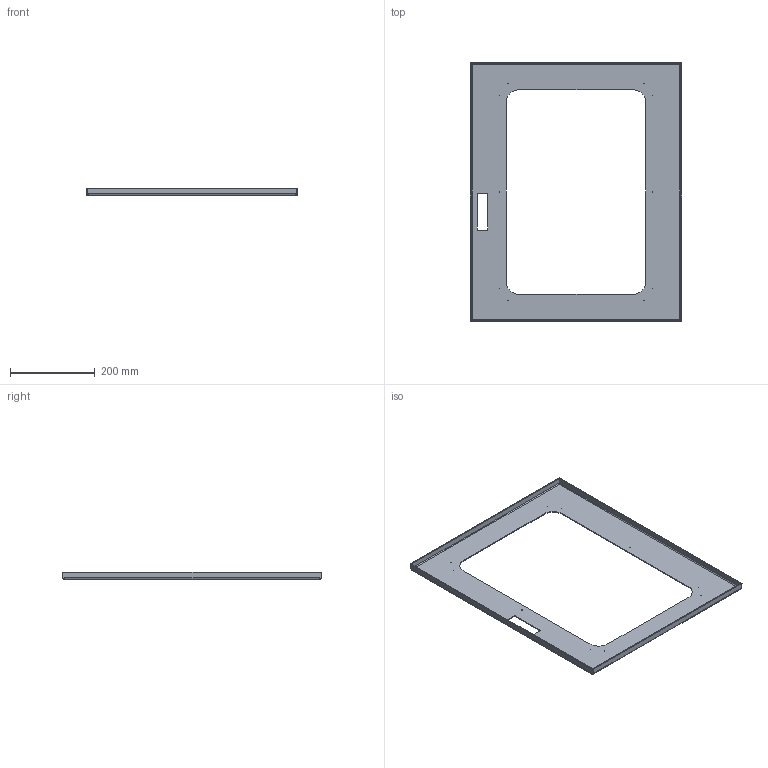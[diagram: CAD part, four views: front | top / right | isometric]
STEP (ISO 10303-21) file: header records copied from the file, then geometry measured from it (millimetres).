
FILE_DESCRIPTION (( 'STEP AP203' ), '1' );
FILE_NAME ('ORW-72.24.20.20.10.001 Ïîëîòíî.STEP', '2025-10-13T13:18:56', ( 'Àíäðåé' ), ( '' ), 'SwSTEP 2.0', 'SolidWorks 2025', '' );
FILE_SCHEMA (( 'CONFIG_CONTROL_DESIGN' ));
Length unit declared in the file: millimetre
Products named in the file (1): ORW-72.24.20.20.10.001 Полотно
Bounding box: 497 x 608 x 17 mm (x, y, z)
Volume: 345291.4 mm3; surface area: 353779.3 mm2
Topology: 1 solids, 1 shells, 88 faces, 226 edges, 140 vertices
Faces by surface type: plane 62, cylinder 26
Full cylindrical faces by diameter (mm): 0.5 x10
Entity records: 2715 total; most frequent: DIRECTION 446, CARTESIAN_POINT 445, ORIENTED_EDGE 432, EDGE_CURVE 216, VECTOR 164, LINE 164, AXIS2_PLACEMENT_3D 141, VERTEX_POINT 140
